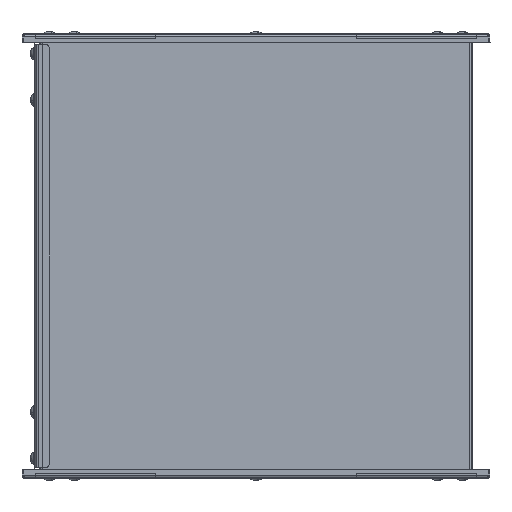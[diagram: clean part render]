
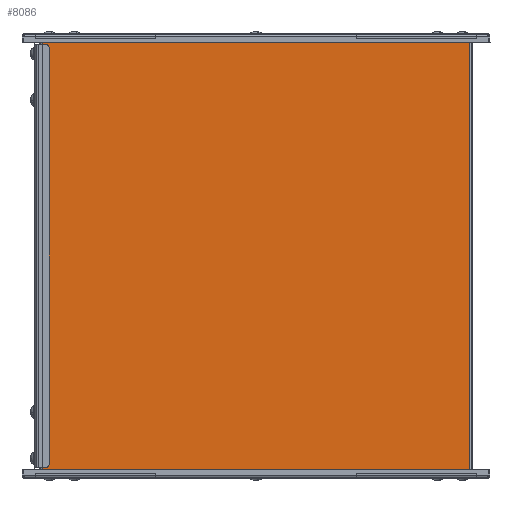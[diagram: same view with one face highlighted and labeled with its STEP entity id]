
A CAD part, left-side view. The second image highlights one B-rep face of the part: STEP entity #8086.
In plain terms, the highlighted planar face has unit normal (-1, 0, 0).
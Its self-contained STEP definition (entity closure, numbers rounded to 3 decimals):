
#30 = DIRECTION ( 'NONE',  ( 0., 0., -1. ) ) ;
#31 = CARTESIAN_POINT ( 'NONE',  ( -250., 275., 140.759 ) ) ;
#60 = DIRECTION ( 'NONE',  ( 0., -1., 0. ) ) ;
#61 = CARTESIAN_POINT ( 'NONE',  ( -250., 276.059, -139.7 ) ) ;
#89 = DIRECTION ( 'NONE',  ( 0., 1., 0. ) ) ;
#91 = CARTESIAN_POINT ( 'NONE',  ( -250., 1.2, 139.7 ) ) ;
#547 = DIRECTION ( 'NONE',  ( 0., 0., -1. ) ) ;
#548 = CARTESIAN_POINT ( 'NONE',  ( -250., 1.2, 0. ) ) ;
#952 = DIRECTION ( 'NONE',  ( 0., -1., 0. ) ) ;
#953 = DIRECTION ( 'NONE',  ( 1., 0., 0. ) ) ;
#956 = PLANE ( 'NONE',  #6037 ) ;
#959 = CARTESIAN_POINT ( 'NONE',  ( -250., 0., 0. ) ) ;
#2414 = LINE ( 'NONE', #91, #2417 ) ;
#2417 = VECTOR ( 'NONE', #89, 1000. ) ;
#2420 = LINE ( 'NONE', #61, #2421 ) ;
#2421 = VECTOR ( 'NONE', #60, 1000. ) ;
#2424 = LINE ( 'NONE', #31, #2425 ) ;
#2425 = VECTOR ( 'NONE', #30, 1000. ) ;
#2428 = LINE ( 'NONE', #548, #2429 ) ;
#2429 = VECTOR ( 'NONE', #547, 1000. ) ;
#4903 = VERTEX_POINT ( 'NONE', #10775 ) ;
#5258 = VERTEX_POINT ( 'NONE', #10588 ) ;
#5723 = VERTEX_POINT ( 'NONE', #19741 ) ;
#5725 = VERTEX_POINT ( 'NONE', #19739 ) ;
#6037 = AXIS2_PLACEMENT_3D ( 'NONE', #959, #953, #952 ) ;
#8086 = ADVANCED_FACE ( 'NONE', ( #10380 ), #956, .F. ) ;
#10380 = FACE_OUTER_BOUND ( 'NONE', #15997, .T. ) ;
#10588 = CARTESIAN_POINT ( 'NONE',  ( -250., 275., -139.7 ) ) ;
#10775 = CARTESIAN_POINT ( 'NONE',  ( -250., 275., 139.7 ) ) ;
#11497 = EDGE_CURVE ( 'NONE', #5723, #4903, #2414, .T. ) ;
#11501 = EDGE_CURVE ( 'NONE', #5258, #5725, #2420, .T. ) ;
#11505 = EDGE_CURVE ( 'NONE', #4903, #5258, #2424, .T. ) ;
#11509 = EDGE_CURVE ( 'NONE', #5723, #5725, #2428, .T. ) ;
#12546 = ORIENTED_EDGE ( 'NONE', *, *, #11509, .F. ) ;
#12547 = ORIENTED_EDGE ( 'NONE', *, *, #11505, .T. ) ;
#12548 = ORIENTED_EDGE ( 'NONE', *, *, #11501, .T. ) ;
#12561 = ORIENTED_EDGE ( 'NONE', *, *, #11497, .T. ) ;
#15997 = EDGE_LOOP ( 'NONE', ( #12547, #12548, #12546, #12561 ) ) ;
#19739 = CARTESIAN_POINT ( 'NONE',  ( -250., 1.2, -139.7 ) ) ;
#19741 = CARTESIAN_POINT ( 'NONE',  ( -250., 1.2, 139.7 ) ) ;
